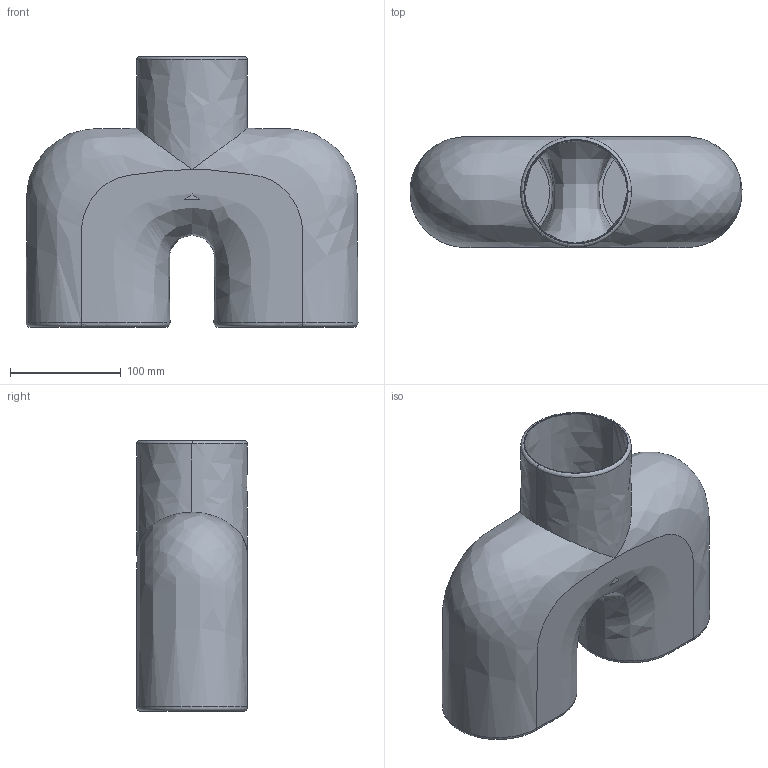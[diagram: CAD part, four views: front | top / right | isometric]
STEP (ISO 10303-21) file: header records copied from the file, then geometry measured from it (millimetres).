
FILE_DESCRIPTION(/* description */ (''),/* implementation_level */ '2;1');
FILE_NAME(/* name */ 'Cobra Uno',/* time_stamp */ '2020-07-07T11:15:22+02:00',/* author */ (''),/* organization */ (''),/* preprocessor_version */ 'ST-DEVELOPER v15',/* originating_system */ '',/* authorisation */ '');
FILE_SCHEMA (('AUTOMOTIVE_DESIGN'));
Length unit declared in the file: millimetre
Products named in the file (1): Document
Bounding box: 299.92 x 100 x 244.65 mm (x, y, z)
Surface area: 204227.2 mm2 (no closed solid volume)
Topology: 0 solids, 3 shells, 20 faces, 49 edges, 33 vertices
Faces by surface type: bspline 15, plane 5
Entity records: 6969 total; most frequent: CARTESIAN_POINT 6671, ORIENTED_EDGE 81, EDGE_CURVE 49, VERTEX_POINT 33, EDGE_LOOP 22, ADVANCED_FACE 20, FACE_OUTER_BOUND 20, B_SPLINE_CURVE_WITH_KNOTS 14
